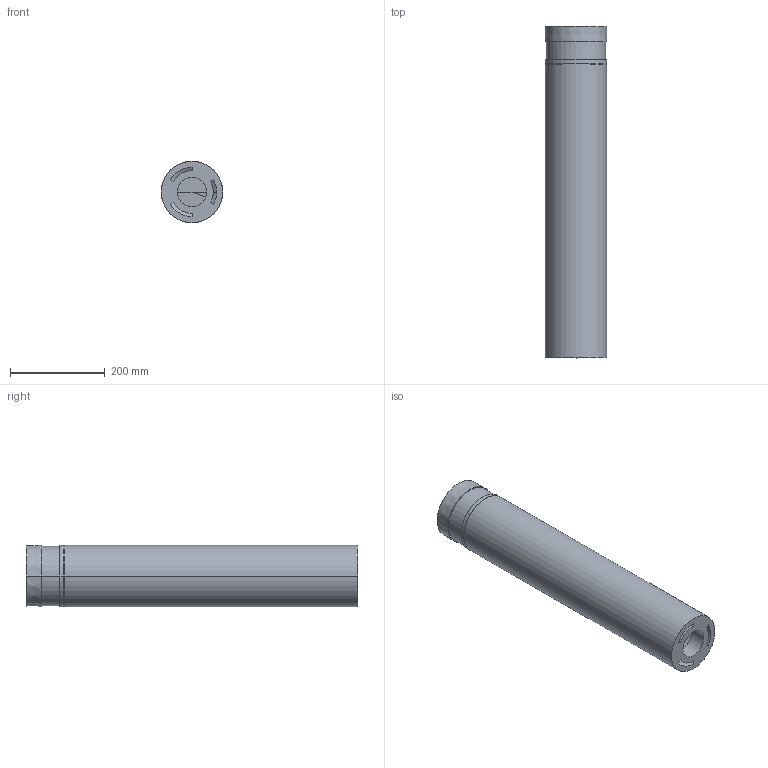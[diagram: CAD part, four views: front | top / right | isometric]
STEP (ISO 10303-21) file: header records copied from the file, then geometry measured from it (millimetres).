
FILE_DESCRIPTION((''),'2;1');
FILE_NAME('PRT0001_SW0004','2025-07-02T08:47:53',('Piccioli'),(''),'CREO PARAMETRIC BY PTC INC, 2025010','CREO PARAMETRIC BY PTC INC, 2025010','');
FILE_SCHEMA(('CONFIG_CONTROL_DESIGN'));
Length unit declared in the file: millimetre
Products named in the file (1): PRT0001_SW0004
Bounding box: 129.72 x 699.02 x 129.72 mm (x, y, z)
Surface area: 564856 mm2 (no closed solid volume)
Topology: 0 solids, 5 shells, 27 faces, 88 edges, 62 vertices
Faces by surface type: cone 16, cylinder 8, plane 3
Entity records: 1000 total; most frequent: DIRECTION 186, CARTESIAN_POINT 173, ORIENTED_EDGE 128, EDGE_CURVE 84, AXIS2_PLACEMENT_3D 75, VERTEX_POINT 62, CIRCLE 48, VECTOR 36
